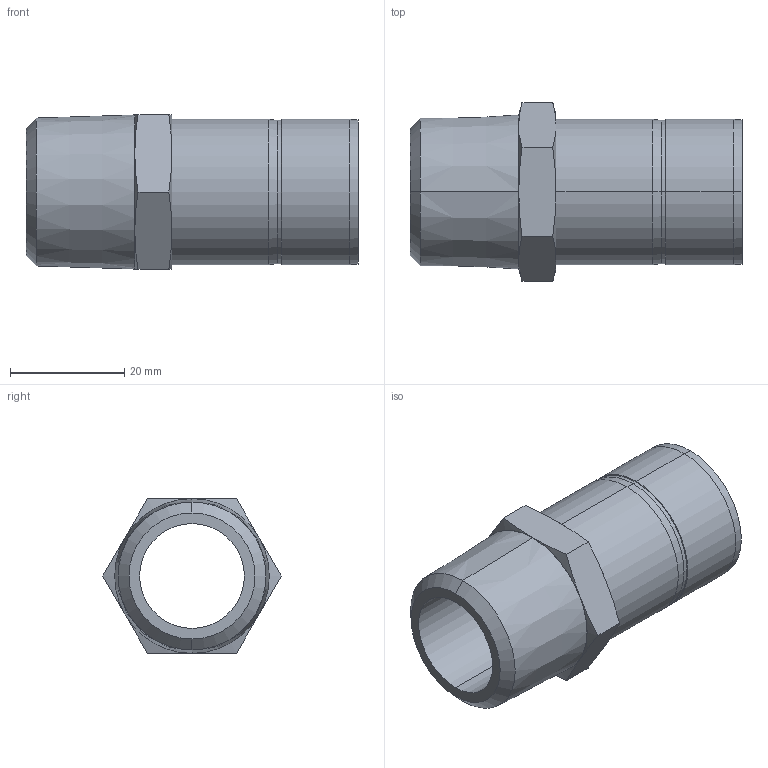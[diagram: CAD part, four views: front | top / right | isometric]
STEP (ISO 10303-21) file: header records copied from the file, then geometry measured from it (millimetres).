
FILE_DESCRIPTION (( 'STEP AP203' ), '1' );
FILE_NAME ('DHA16-12 SS.STEP', '2009-09-08T06:15:19', ( ' ' ), ( '' ), 'SwSTEP 2.0', 'SolidWorks 2008', '' );
FILE_SCHEMA (( 'CONFIG_CONTROL_DESIGN' ));
Length unit declared in the file: millimetre
Products named in the file (1): DHA16-12 SS
Bounding box: 58 x 31.17 x 26.99 mm (x, y, z)
Volume: 13565.1 mm3; surface area: 8854.2 mm2
Topology: 1 solids, 1 shells, 44 faces, 92 edges, 52 vertices
Faces by surface type: cone 24, cylinder 10, plane 10
Entity records: 1305 total; most frequent: CARTESIAN_POINT 309, DIRECTION 198, ORIENTED_EDGE 184, EDGE_CURVE 92, AXIS2_PLACEMENT_3D 85, VERTEX_POINT 52, EDGE_LOOP 48, ADVANCED_FACE 44
